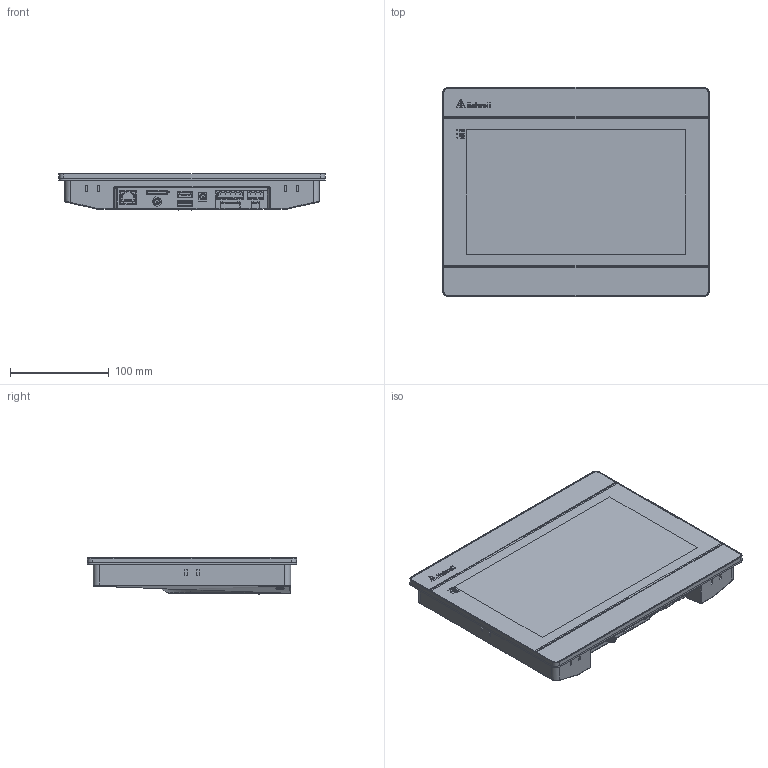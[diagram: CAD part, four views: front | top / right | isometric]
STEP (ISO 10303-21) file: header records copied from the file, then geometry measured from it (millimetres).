
FILE_DESCRIPTION (( 'STEP AP214' ), '1' );
FILE_NAME ('C10S-EW.STEP', '2022-01-18T15:56:02', ( '' ), ( '' ), 'SwSTEP 2.0', 'SolidWorks 2021', '' );
FILE_SCHEMA (( 'AUTOMOTIVE_DESIGN' ));
Length unit declared in the file: millimetre
Products named in the file (8): Fusible ZHL30-1; clavija-Coolmay-3-5; USB Host CBOX; User Library-Johnson Components SMA - 50 Ohm Connectors 142-0701-801; clavija-Coolmay-3-3; LAN CBOX; C10S-EW
Assembly tree (9 placements, depth 2):
  C10S-EW
    C10S-EW
    Fusible ZHL30-1
    LAN CBOX
    USB Host CBOX  x2
    User Library-Johnson Components SMA - 50 Ohm Connectors 142-0701-801  x2
    clavija-Coolmay-3-3
    clavija-Coolmay-3-5
Bounding box: 270 x 212 x 37.16 mm (x, y, z)
Volume: 1633408.3 mm3; surface area: 244396.4 mm2
Topology: 16 solids, 16 shells, 2469 faces, 6454 edges, 4137 vertices
Faces by surface type: plane 1611, cylinder 484, bspline 209, cone 152, torus 7, sphere 6
Entity records: 80488 total; most frequent: CARTESIAN_POINT 20644, ORIENTED_EDGE 10206, DIRECTION 8610, EDGE_CURVE 5103, LINE 3750, VECTOR 3750, VERTEX_POINT 3297, AXIS2_PLACEMENT_3D 2430
